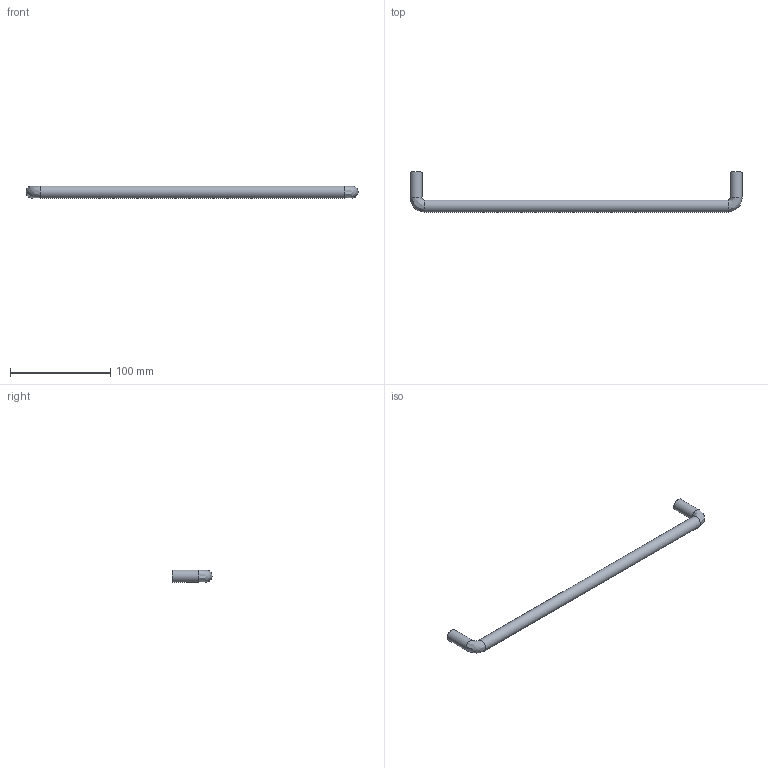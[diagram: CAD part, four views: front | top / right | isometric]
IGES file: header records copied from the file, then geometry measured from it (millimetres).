
Start section: Data from Parasolid IGES Translator 15.0.47, Copyright(c) 2006 Siemens P LM Software. All Rights Reserved.
Global section: file name: 9070119.igs; native system:  By UGS Corp.; preprocessor: XPlus GENERIC/IGES 3.0; author: Noname; organization: Noname; date: 20140122.155451; units: millimetre
Bounding box: 332 x 40 x 12 mm (x, y, z)
Surface area: 14845.9 mm2 (no closed solid volume)
Topology: 0 solids, 0 shells, 11 faces, 42 edges, 38 vertices
Faces by surface type: revolution 7, extrusion 4
